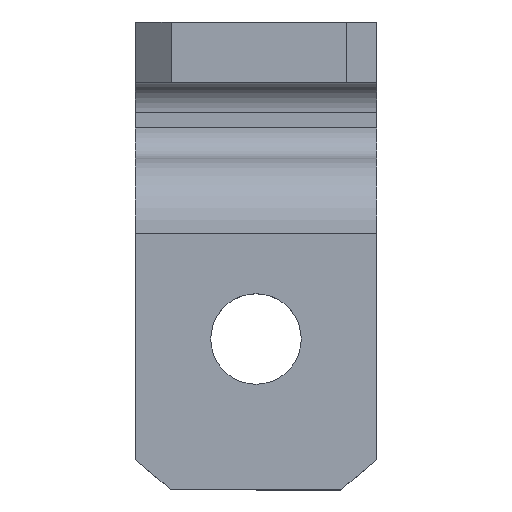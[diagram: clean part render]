
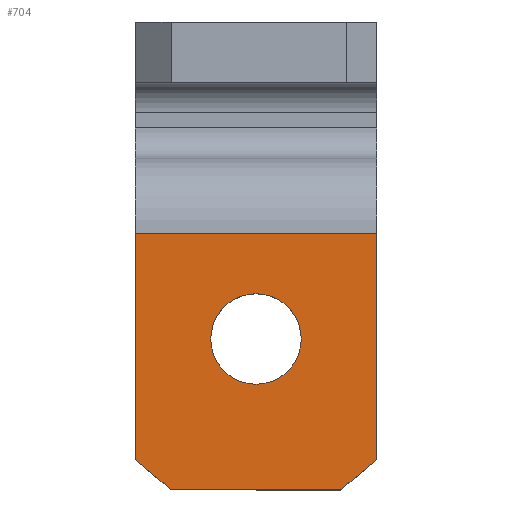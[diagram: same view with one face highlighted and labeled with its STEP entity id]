
A CAD part, top view. The second image highlights one B-rep face of the part: STEP entity #704.
In plain terms, the highlighted planar face has unit normal (0, 0, 1).
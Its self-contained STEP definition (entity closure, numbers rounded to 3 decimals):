
#25 = ORIENTED_EDGE ( 'NONE', *, *, #318, .T. ) ;
#34 = ORIENTED_EDGE ( 'NONE', *, *, #248, .F. ) ;
#35 = VERTEX_POINT ( 'NONE', #586 ) ;
#37 = VERTEX_POINT ( 'NONE', #734 ) ;
#96 = ORIENTED_EDGE ( 'NONE', *, *, #321, .T. ) ;
#133 = ORIENTED_EDGE ( 'NONE', *, *, #319, .T. ) ;
#177 = AXIS2_PLACEMENT_3D ( 'NONE', #875, #883, #884 ) ;
#214 = AXIS2_PLACEMENT_3D ( 'NONE', #1010, #1011, #1012 ) ;
#242 = AXIS2_PLACEMENT_3D ( 'NONE', #1277, #1275, #1273 ) ;
#247 = EDGE_CURVE ( 'NONE', #453, #531, #520, .T. ) ;
#248 = EDGE_CURVE ( 'NONE', #37, #35, #465, .T. ) ;
#304 = EDGE_CURVE ( 'NONE', #410, #547, #1061, .T. ) ;
#317 = EDGE_CURVE ( 'NONE', #35, #37, #1082, .T. ) ;
#318 = EDGE_CURVE ( 'NONE', #410, #453, #1090, .T. ) ;
#319 = EDGE_CURVE ( 'NONE', #531, #360, #1119, .T. ) ;
#320 = EDGE_CURVE ( 'NONE', #360, #474, #1115, .T. ) ;
#321 = EDGE_CURVE ( 'NONE', #474, #547, #1114, .T. ) ;
#360 = VERTEX_POINT ( 'NONE', #794 ) ;
#380 = ORIENTED_EDGE ( 'NONE', *, *, #247, .T. ) ;
#389 = ORIENTED_EDGE ( 'NONE', *, *, #304, .F. ) ;
#410 = VERTEX_POINT ( 'NONE', #801 ) ;
#451 = EDGE_LOOP ( 'NONE', ( #489, #34 ) ) ;
#453 = VERTEX_POINT ( 'NONE', #807 ) ;
#456 = VECTOR ( 'NONE', #608, 1000. ) ;
#465 = CIRCLE ( 'NONE', #242, 3. ) ;
#474 = VERTEX_POINT ( 'NONE', #811 ) ;
#489 = ORIENTED_EDGE ( 'NONE', *, *, #317, .F. ) ;
#499 = EDGE_LOOP ( 'NONE', ( #389, #25, #380, #133, #512, #96 ) ) ;
#512 = ORIENTED_EDGE ( 'NONE', *, *, #320, .T. ) ;
#520 = LINE ( 'NONE', #593, #456 ) ;
#531 = VERTEX_POINT ( 'NONE', #816 ) ;
#547 = VERTEX_POINT ( 'NONE', #905 ) ;
#586 = CARTESIAN_POINT ( 'NONE',  ( 3., -17., 10. ) ) ;
#593 = CARTESIAN_POINT ( 'NONE',  ( -8., -5., 10. ) ) ;
#608 = DIRECTION ( 'NONE',  ( 0., -1., 0. ) ) ;
#704 = ADVANCED_FACE ( 'NONE', ( #1078, #1206 ), #879, .T. ) ;
#715 = DIRECTION ( 'NONE',  ( 0., -1., 0. ) ) ;
#719 = CARTESIAN_POINT ( 'NONE',  ( 8., -5., 10. ) ) ;
#734 = CARTESIAN_POINT ( 'NONE',  ( -3., -17., 10. ) ) ;
#794 = CARTESIAN_POINT ( 'NONE',  ( -5.616, -27., 10. ) ) ;
#801 = CARTESIAN_POINT ( 'NONE',  ( 8., -10., 10. ) ) ;
#807 = CARTESIAN_POINT ( 'NONE',  ( -8., -10., 10. ) ) ;
#811 = CARTESIAN_POINT ( 'NONE',  ( 5.616, -27., 10. ) ) ;
#816 = CARTESIAN_POINT ( 'NONE',  ( -8., -25., 10. ) ) ;
#875 = CARTESIAN_POINT ( 'NONE',  ( -8., -5., 10. ) ) ;
#879 = PLANE ( 'NONE',  #177 ) ;
#883 = DIRECTION ( 'NONE',  ( 0., 0., 1. ) ) ;
#884 = DIRECTION ( 'NONE',  ( 0., -1., 0. ) ) ;
#905 = CARTESIAN_POINT ( 'NONE',  ( 8., -25., 10. ) ) ;
#999 = DIRECTION ( 'NONE',  ( -1., 0., 0. ) ) ;
#1004 = CARTESIAN_POINT ( 'NONE',  ( -8., -10., 10. ) ) ;
#1010 = CARTESIAN_POINT ( 'NONE',  ( 0., -17., 10. ) ) ;
#1011 = DIRECTION ( 'NONE',  ( 0., 0., 1. ) ) ;
#1012 = DIRECTION ( 'NONE',  ( 1., 0., 0. ) ) ;
#1013 = CARTESIAN_POINT ( 'NONE',  ( -17.848, -16.736, 10. ) ) ;
#1014 = DIRECTION ( 'NONE',  ( 0.766, -0.643, 0. ) ) ;
#1015 = CARTESIAN_POINT ( 'NONE',  ( -8., -27., 10. ) ) ;
#1016 = DIRECTION ( 'NONE',  ( 1., 0., 0. ) ) ;
#1017 = CARTESIAN_POINT ( 'NONE',  ( 8.459, -24.615, 10. ) ) ;
#1018 = DIRECTION ( 'NONE',  ( 0.766, 0.643, 0. ) ) ;
#1055 = VECTOR ( 'NONE', #715, 1000. ) ;
#1061 = LINE ( 'NONE', #719, #1055 ) ;
#1078 = FACE_BOUND ( 'NONE', #451, .T. ) ;
#1082 = CIRCLE ( 'NONE', #214, 3. ) ;
#1090 = LINE ( 'NONE', #1004, #1116 ) ;
#1106 = VECTOR ( 'NONE', #1018, 1000. ) ;
#1110 = VECTOR ( 'NONE', #1016, 1000. ) ;
#1114 = LINE ( 'NONE', #1017, #1106 ) ;
#1115 = LINE ( 'NONE', #1015, #1110 ) ;
#1116 = VECTOR ( 'NONE', #999, 1000. ) ;
#1118 = VECTOR ( 'NONE', #1014, 1000. ) ;
#1119 = LINE ( 'NONE', #1013, #1118 ) ;
#1206 = FACE_OUTER_BOUND ( 'NONE', #499, .T. ) ;
#1273 = DIRECTION ( 'NONE',  ( 1., 0., 0. ) ) ;
#1275 = DIRECTION ( 'NONE',  ( 0., 0., 1. ) ) ;
#1277 = CARTESIAN_POINT ( 'NONE',  ( 0., -17., 10. ) ) ;
